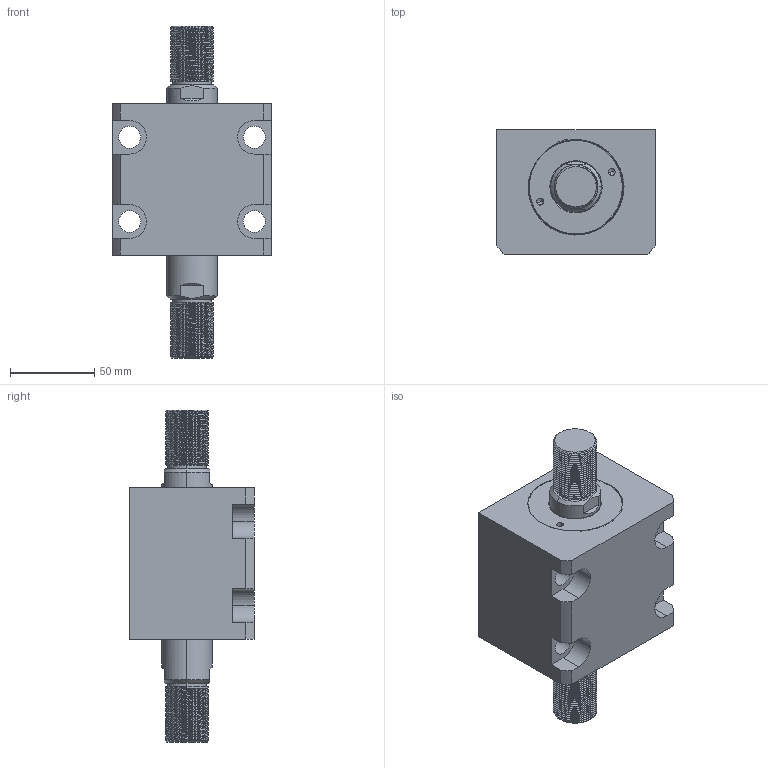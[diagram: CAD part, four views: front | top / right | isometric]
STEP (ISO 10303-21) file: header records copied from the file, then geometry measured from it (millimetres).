
FILE_DESCRIPTION (( 'STEP AP203' ), '1' );
FILE_NAME ('CHTB-LWM50-15W.STEP', '2018-05-22T08:50:12', ( '' ), ( '' ), 'SwSTEP 2.0', 'SolidWorks 2015', '' );
FILE_SCHEMA (( 'CONFIG_CONTROL_DESIGN' ));
Length unit declared in the file: millimetre
Products named in the file (4): CHTM-SDMA50QG; 活塞杆LWM50-15W; 掛极LWM50-15W; CHTB-LWM50-15W
Assembly tree (3 placements, depth 2):
  CHTB-LWM50-15W
    掛极LWM50-15W
    活塞杆LWM50-15W
    CHTM-SDMA50QG
Bounding box: 94 x 74 x 197 mm (x, y, z)
Volume: 610432.2 mm3; surface area: 108736.1 mm2
Topology: 3 solids, 3 shells, 292 faces, 809 edges, 539 vertices
Faces by surface type: cylinder 186, plane 53, cone 19, bspline 18, torus 16
Entity records: 18913 total; most frequent: CARTESIAN_POINT 11790, ORIENTED_EDGE 1610, DIRECTION 1212, EDGE_CURVE 805, VERTEX_POINT 539, AXIS2_PLACEMENT_3D 469, EDGE_LOOP 328, FACE_OUTER_BOUND 292
